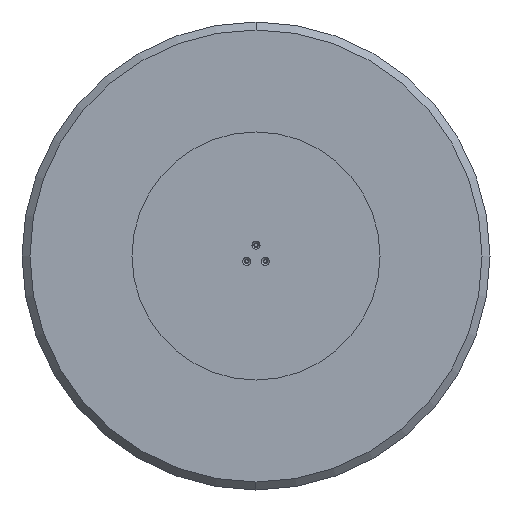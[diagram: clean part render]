
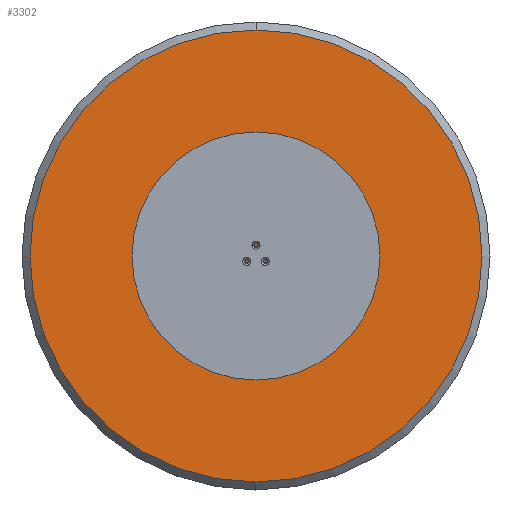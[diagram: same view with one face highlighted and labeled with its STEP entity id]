
A CAD part, front view. The second image highlights one B-rep face of the part: STEP entity #3302.
In plain terms, the highlighted planar face has unit normal (0, -1, 0).
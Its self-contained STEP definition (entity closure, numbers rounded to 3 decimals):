
#17 = DIRECTION ( 'NONE',  ( 0., 0., -1. ) ) ;
#51 = DIRECTION ( 'NONE',  ( 0., 0., -1. ) ) ;
#124 = ORIENTED_EDGE ( 'NONE', *, *, #3079, .F. ) ;
#127 = CARTESIAN_POINT ( 'NONE',  ( 0., 0., 109.697 ) ) ;
#142 = CARTESIAN_POINT ( 'NONE',  ( -95., 0., -58.248 ) ) ;
#156 = ORIENTED_EDGE ( 'NONE', *, *, #1500, .T. ) ;
#166 = DIRECTION ( 'NONE',  ( 0., -1., 0. ) ) ;
#171 = CIRCLE ( 'NONE', #1756, 3.4 ) ;
#172 = DIRECTION ( 'NONE',  ( 0., 0., -1. ) ) ;
#181 = CARTESIAN_POINT ( 'NONE',  ( 95., 0., -51.448 ) ) ;
#187 = CARTESIAN_POINT ( 'NONE',  ( 95., 0., -54.848 ) ) ;
#197 = EDGE_CURVE ( 'NONE', #2677, #324, #2201, .T. ) ;
#264 = DIRECTION ( 'NONE',  ( 0., -1., 0. ) ) ;
#268 = CIRCLE ( 'NONE', #641, 3.4 ) ;
#324 = VERTEX_POINT ( 'NONE', #2697 ) ;
#380 = CIRCLE ( 'NONE', #2385, 3.4 ) ;
#391 = ORIENTED_EDGE ( 'NONE', *, *, #2815, .F. ) ;
#392 = DIRECTION ( 'NONE',  ( 0., 0., -1. ) ) ;
#457 = CARTESIAN_POINT ( 'NONE',  ( 0., 0., 0. ) ) ;
#463 = DIRECTION ( 'NONE',  ( 0., -1., 0. ) ) ;
#490 = CARTESIAN_POINT ( 'NONE',  ( -95., 0., -54.848 ) ) ;
#523 = CARTESIAN_POINT ( 'NONE',  ( 0., 0., 0. ) ) ;
#641 = AXIS2_PLACEMENT_3D ( 'NONE', #127, #3577, #392 ) ;
#669 = EDGE_CURVE ( 'NONE', #3641, #1180, #1234, .T. ) ;
#772 = FACE_BOUND ( 'NONE', #1224, .T. ) ;
#790 = CIRCLE ( 'NONE', #2959, 483. ) ;
#820 = VERTEX_POINT ( 'NONE', #2913 ) ;
#873 = ORIENTED_EDGE ( 'NONE', *, *, #1887, .F. ) ;
#936 = DIRECTION ( 'NONE',  ( 0., -1., 0. ) ) ;
#1052 = DIRECTION ( 'NONE',  ( 0., -1., 0. ) ) ;
#1180 = VERTEX_POINT ( 'NONE', #1469 ) ;
#1224 = EDGE_LOOP ( 'NONE', ( #2513, #2905 ) ) ;
#1234 = CIRCLE ( 'NONE', #3651, 3.4 ) ;
#1248 = DIRECTION ( 'NONE',  ( 0., -1., 0. ) ) ;
#1267 = EDGE_LOOP ( 'NONE', ( #3371, #1980 ) ) ;
#1269 = CARTESIAN_POINT ( 'NONE',  ( -95., 0., -54.848 ) ) ;
#1325 = DIRECTION ( 'NONE',  ( 0., 0., -1. ) ) ;
#1369 = DIRECTION ( 'NONE',  ( 0., -1., 0. ) ) ;
#1436 = CARTESIAN_POINT ( 'NONE',  ( 0., 0., 0. ) ) ;
#1469 = CARTESIAN_POINT ( 'NONE',  ( 0., 0., -3.4 ) ) ;
#1500 = EDGE_CURVE ( 'NONE', #324, #2677, #790, .T. ) ;
#1551 = CARTESIAN_POINT ( 'NONE',  ( 95., 0., -58.248 ) ) ;
#1613 = EDGE_CURVE ( 'NONE', #1180, #3641, #171, .T. ) ;
#1614 = PLANE ( 'NONE',  #2105 ) ;
#1631 = FACE_BOUND ( 'NONE', #3033, .T. ) ;
#1740 = CIRCLE ( 'NONE', #3476, 3.4 ) ;
#1752 = AXIS2_PLACEMENT_3D ( 'NONE', #2392, #3217, #2145 ) ;
#1756 = AXIS2_PLACEMENT_3D ( 'NONE', #1436, #3531, #2928 ) ;
#1827 = ORIENTED_EDGE ( 'NONE', *, *, #197, .T. ) ;
#1838 = ORIENTED_EDGE ( 'NONE', *, *, #3568, .F. ) ;
#1880 = VERTEX_POINT ( 'NONE', #2769 ) ;
#1887 = EDGE_CURVE ( 'NONE', #1880, #820, #268, .T. ) ;
#1980 = ORIENTED_EDGE ( 'NONE', *, *, #669, .F. ) ;
#2105 = AXIS2_PLACEMENT_3D ( 'NONE', #3309, #463, #172 ) ;
#2117 = CARTESIAN_POINT ( 'NONE',  ( -95., 0., -51.448 ) ) ;
#2145 = DIRECTION ( 'NONE',  ( 0., 0., -1. ) ) ;
#2201 = CIRCLE ( 'NONE', #3159, 483. ) ;
#2292 = VERTEX_POINT ( 'NONE', #2117 ) ;
#2385 = AXIS2_PLACEMENT_3D ( 'NONE', #3146, #936, #51 ) ;
#2392 = CARTESIAN_POINT ( 'NONE',  ( 95., 0., -54.848 ) ) ;
#2443 = FACE_BOUND ( 'NONE', #3445, .T. ) ;
#2467 = EDGE_LOOP ( 'NONE', ( #1827, #156 ) ) ;
#2513 = ORIENTED_EDGE ( 'NONE', *, *, #2681, .F. ) ;
#2514 = DIRECTION ( 'NONE',  ( 0., 0., -1. ) ) ;
#2553 = DIRECTION ( 'NONE',  ( 0., -1., 0. ) ) ;
#2640 = AXIS2_PLACEMENT_3D ( 'NONE', #187, #1369, #2514 ) ;
#2677 = VERTEX_POINT ( 'NONE', #2930 ) ;
#2681 = EDGE_CURVE ( 'NONE', #3184, #3650, #3092, .T. ) ;
#2697 = CARTESIAN_POINT ( 'NONE',  ( 0., 0., -483. ) ) ;
#2769 = CARTESIAN_POINT ( 'NONE',  ( 0., 0., 113.097 ) ) ;
#2770 = DIRECTION ( 'NONE',  ( 0., 0., -1. ) ) ;
#2815 = EDGE_CURVE ( 'NONE', #3331, #2292, #3261, .T. ) ;
#2905 = ORIENTED_EDGE ( 'NONE', *, *, #3336, .F. ) ;
#2913 = CARTESIAN_POINT ( 'NONE',  ( 0., 0., 106.297 ) ) ;
#2928 = DIRECTION ( 'NONE',  ( 0., 0., -1. ) ) ;
#2930 = CARTESIAN_POINT ( 'NONE',  ( 0., 0., 483. ) ) ;
#2943 = DIRECTION ( 'NONE',  ( 0., 0., -1. ) ) ;
#2959 = AXIS2_PLACEMENT_3D ( 'NONE', #523, #2553, #3112 ) ;
#3029 = FACE_OUTER_BOUND ( 'NONE', #2467, .T. ) ;
#3033 = EDGE_LOOP ( 'NONE', ( #391, #124 ) ) ;
#3070 = FACE_BOUND ( 'NONE', #1267, .T. ) ;
#3079 = EDGE_CURVE ( 'NONE', #2292, #3331, #1740, .T. ) ;
#3092 = CIRCLE ( 'NONE', #1752, 3.4 ) ;
#3112 = DIRECTION ( 'NONE',  ( 0., 0., -1. ) ) ;
#3117 = CARTESIAN_POINT ( 'NONE',  ( 0., 0., 3.4 ) ) ;
#3146 = CARTESIAN_POINT ( 'NONE',  ( 0., 0., 109.697 ) ) ;
#3159 = AXIS2_PLACEMENT_3D ( 'NONE', #3467, #264, #2943 ) ;
#3184 = VERTEX_POINT ( 'NONE', #1551 ) ;
#3199 = AXIS2_PLACEMENT_3D ( 'NONE', #490, #1052, #2770 ) ;
#3217 = DIRECTION ( 'NONE',  ( 0., -1., 0. ) ) ;
#3261 = CIRCLE ( 'NONE', #3199, 3.4 ) ;
#3302 = ADVANCED_FACE ( 'NONE', ( #1631, #2443, #772, #3029, #3070 ), #1614, .T. ) ;
#3309 = CARTESIAN_POINT ( 'NONE',  ( 0., 0., 0. ) ) ;
#3315 = CIRCLE ( 'NONE', #2640, 3.4 ) ;
#3331 = VERTEX_POINT ( 'NONE', #142 ) ;
#3336 = EDGE_CURVE ( 'NONE', #3650, #3184, #3315, .T. ) ;
#3371 = ORIENTED_EDGE ( 'NONE', *, *, #1613, .F. ) ;
#3445 = EDGE_LOOP ( 'NONE', ( #1838, #873 ) ) ;
#3467 = CARTESIAN_POINT ( 'NONE',  ( 0., 0., 0. ) ) ;
#3476 = AXIS2_PLACEMENT_3D ( 'NONE', #1269, #1248, #17 ) ;
#3531 = DIRECTION ( 'NONE',  ( 0., -1., 0. ) ) ;
#3568 = EDGE_CURVE ( 'NONE', #820, #1880, #380, .T. ) ;
#3577 = DIRECTION ( 'NONE',  ( 0., -1., 0. ) ) ;
#3641 = VERTEX_POINT ( 'NONE', #3117 ) ;
#3650 = VERTEX_POINT ( 'NONE', #181 ) ;
#3651 = AXIS2_PLACEMENT_3D ( 'NONE', #457, #166, #1325 ) ;
